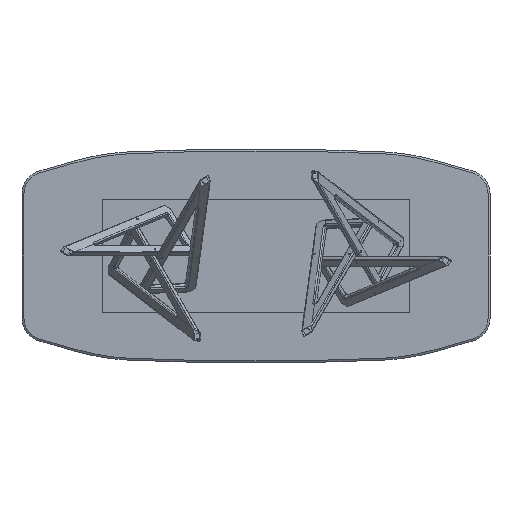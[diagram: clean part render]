
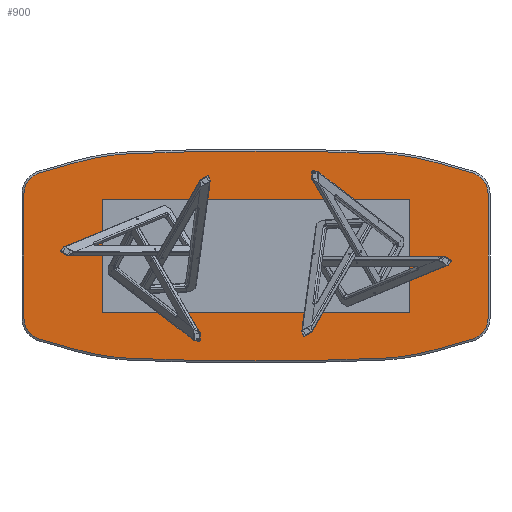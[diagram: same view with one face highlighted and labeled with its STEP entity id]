
A CAD part, front view. The second image highlights one B-rep face of the part: STEP entity #900.
In plain terms, the highlighted planar face has unit normal (0, -1, 0) as drawn and (0, 0, -1) by its records, which use the part's own axes.
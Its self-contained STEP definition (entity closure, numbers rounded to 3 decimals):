
#623 = DIRECTION ( 'NONE',  ( 0., 1., 0. ) ) ;
#665 = CARTESIAN_POINT ( 'NONE',  ( 1190.003, 320., 0. ) ) ;
#836 = CARTESIAN_POINT ( 'NONE',  ( -595.277, -664.531, 0. ) ) ;
#900 = ADVANCED_FACE ( 'NONE', ( #20739 ), #10003, .T. ) ;
#927 = AXIS2_PLACEMENT_3D ( 'NONE', #13142, #23718, #14945 ) ;
#1226 = EDGE_CURVE ( 'NONE', #1399, #5859, #1689, .T. ) ;
#1227 = VECTOR ( 'NONE', #623, 1000. ) ;
#1252 = CARTESIAN_POINT ( 'NONE',  ( 1163.045, 1077.619, 0. ) ) ;
#1399 = VERTEX_POINT ( 'NONE', #13248 ) ;
#1689 = CIRCLE ( 'NONE', #927, 110.003 ) ;
#1810 = CIRCLE ( 'NONE', #15316, 1190.003 ) ;
#1813 = CARTESIAN_POINT ( 'NONE',  ( 1190.003, -320., 0. ) ) ;
#2293 = ORIENTED_EDGE ( 'NONE', *, *, #20290, .T. ) ;
#2817 = CARTESIAN_POINT ( 'NONE',  ( -653.341, -524.054, 0. ) ) ;
#3246 = VERTEX_POINT ( 'NONE', #19134 ) ;
#3293 = ORIENTED_EDGE ( 'NONE', *, *, #20166, .T. ) ;
#3677 = CARTESIAN_POINT ( 'NONE',  ( 653.341, 524.054, 0. ) ) ;
#3869 = VECTOR ( 'NONE', #19811, 1000. ) ;
#4294 = CARTESIAN_POINT ( 'NONE',  ( -1110.321, -425.742, 0. ) ) ;
#4784 = DIRECTION ( 'NONE',  ( 0.961, -0.276, 0. ) ) ;
#4946 = CIRCLE ( 'NONE', #18462, 1190.003 ) ;
#4960 = VERTEX_POINT ( 'NONE', #1813 ) ;
#5859 = VERTEX_POINT ( 'NONE', #665 ) ;
#5897 = EDGE_CURVE ( 'NONE', #16600, #10696, #7481, .T. ) ;
#6360 = DIRECTION ( 'NONE',  ( 0., 0., -1. ) ) ;
#6374 = DIRECTION ( 'NONE',  ( -1., 0., 0. ) ) ;
#6572 = CARTESIAN_POINT ( 'NONE',  ( -653.341, 524.054, 0. ) ) ;
#6575 = EDGE_CURVE ( 'NONE', #12448, #18453, #17954, .T. ) ;
#7039 = EDGE_CURVE ( 'NONE', #20177, #15281, #7294, .T. ) ;
#7075 = ORIENTED_EDGE ( 'NONE', *, *, #6575, .T. ) ;
#7294 = LINE ( 'NONE', #13087, #22558 ) ;
#7363 = CIRCLE ( 'NONE', #18181, 110.003 ) ;
#7393 = EDGE_CURVE ( 'NONE', #5859, #4960, #18025, .T. ) ;
#7436 = CARTESIAN_POINT ( 'NONE',  ( 923.287, -479.373, 0. ) ) ;
#7481 = CIRCLE ( 'NONE', #20947, 1190.003 ) ;
#7531 = AXIS2_PLACEMENT_3D ( 'NONE', #15922, #17503, #12060 ) ;
#7640 = ORIENTED_EDGE ( 'NONE', *, *, #7039, .T. ) ;
#7917 = EDGE_CURVE ( 'NONE', #10040, #10768, #1810, .T. ) ;
#7970 = CARTESIAN_POINT ( 'NONE',  ( 1300., 600., 0. ) ) ;
#8004 = VERTEX_POINT ( 'NONE', #17731 ) ;
#8150 = DIRECTION ( 'NONE',  ( -1., 0., 0. ) ) ;
#8151 = DIRECTION ( 'NONE',  ( -1., 0., 0. ) ) ;
#8273 = LINE ( 'NONE', #4294, #16947 ) ;
#8291 = ORIENTED_EDGE ( 'NONE', *, *, #5897, .T. ) ;
#8327 = CARTESIAN_POINT ( 'NONE',  ( 0., -12850., 0. ) ) ;
#8382 = CIRCLE ( 'NONE', #21471, 1190.003 ) ;
#8385 = CARTESIAN_POINT ( 'NONE',  ( 595.277, 664.531, 0. ) ) ;
#8685 = DIRECTION ( 'NONE',  ( 0., 0., -1. ) ) ;
#8841 = CARTESIAN_POINT ( 'NONE',  ( 1190.003, -320., 0. ) ) ;
#9087 = ORIENTED_EDGE ( 'NONE', *, *, #19840, .T. ) ;
#9510 = EDGE_CURVE ( 'NONE', #15281, #10818, #8382, .T. ) ;
#9588 = VERTEX_POINT ( 'NONE', #19823 ) ;
#10003 = PLANE ( 'NONE',  #21312 ) ;
#10040 = VERTEX_POINT ( 'NONE', #21709 ) ;
#10065 = DIRECTION ( 'NONE',  ( -1., 0., 0. ) ) ;
#10187 = DIRECTION ( 'NONE',  ( 0., 0., -1. ) ) ;
#10380 = DIRECTION ( 'NONE',  ( 0., 0., -1. ) ) ;
#10493 = DIRECTION ( 'NONE',  ( -1., 0., 0. ) ) ;
#10673 = VECTOR ( 'NONE', #19356, 1000. ) ;
#10696 = VERTEX_POINT ( 'NONE', #11277 ) ;
#10768 = VERTEX_POINT ( 'NONE', #6572 ) ;
#10818 = VERTEX_POINT ( 'NONE', #21274 ) ;
#10872 = EDGE_CURVE ( 'NONE', #21192, #8004, #4946, .T. ) ;
#10903 = DIRECTION ( 'NONE',  ( -0.961, -0.276, 0. ) ) ;
#11118 = AXIS2_PLACEMENT_3D ( 'NONE', #13590, #10187, #8151 ) ;
#11277 = CARTESIAN_POINT ( 'NONE',  ( -923.287, -479.373, 0. ) ) ;
#11323 = ORIENTED_EDGE ( 'NONE', *, *, #1226, .T. ) ;
#12060 = DIRECTION ( 'NONE',  ( -1., 0., 0. ) ) ;
#12179 = ORIENTED_EDGE ( 'NONE', *, *, #7393, .T. ) ;
#12189 = CARTESIAN_POINT ( 'NONE',  ( 1110.321, -425.742, 0. ) ) ;
#12425 = ORIENTED_EDGE ( 'NONE', *, *, #22412, .T. ) ;
#12448 = VERTEX_POINT ( 'NONE', #13975 ) ;
#12452 = CARTESIAN_POINT ( 'NONE',  ( -1110.321, 425.742, 0. ) ) ;
#12724 = VECTOR ( 'NONE', #4784, 1000. ) ;
#13087 = CARTESIAN_POINT ( 'NONE',  ( 1557.369, -297.553, 0. ) ) ;
#13142 = CARTESIAN_POINT ( 'NONE',  ( 1080., 320., 0. ) ) ;
#13248 = CARTESIAN_POINT ( 'NONE',  ( 1110.321, 425.742, 0. ) ) ;
#13588 = DIRECTION ( 'NONE',  ( 0., 0., -1. ) ) ;
#13590 = CARTESIAN_POINT ( 'NONE',  ( 1080., -320., 0. ) ) ;
#13840 = DIRECTION ( 'NONE',  ( -0.961, 0.276, 0. ) ) ;
#13975 = CARTESIAN_POINT ( 'NONE',  ( -1190.003, 320., 0. ) ) ;
#14180 = EDGE_CURVE ( 'NONE', #4960, #20177, #14608, .T. ) ;
#14296 = LINE ( 'NONE', #1252, #3869 ) ;
#14332 = AXIS2_PLACEMENT_3D ( 'NONE', #8327, #8685, #10493 ) ;
#14354 = CARTESIAN_POINT ( 'NONE',  ( 1110.321, 425.742, 0. ) ) ;
#14608 = CIRCLE ( 'NONE', #11118, 110.003 ) ;
#14609 = DIRECTION ( 'NONE',  ( -1., 0., 0. ) ) ;
#14695 = ORIENTED_EDGE ( 'NONE', *, *, #7917, .T. ) ;
#14945 = DIRECTION ( 'NONE',  ( -1., 0., 0. ) ) ;
#15281 = VERTEX_POINT ( 'NONE', #7436 ) ;
#15316 = AXIS2_PLACEMENT_3D ( 'NONE', #836, #6360, #21193 ) ;
#15787 = LINE ( 'NONE', #14354, #12724 ) ;
#15922 = CARTESIAN_POINT ( 'NONE',  ( -1080., 320., 0. ) ) ;
#16056 = DIRECTION ( 'NONE',  ( -1., 0., 0. ) ) ;
#16382 = AXIS2_PLACEMENT_3D ( 'NONE', #19898, #18465, #14609 ) ;
#16600 = VERTEX_POINT ( 'NONE', #2817 ) ;
#16617 = ORIENTED_EDGE ( 'NONE', *, *, #9510, .T. ) ;
#16947 = VECTOR ( 'NONE', #13840, 1000. ) ;
#17103 = CARTESIAN_POINT ( 'NONE',  ( -595.277, 664.531, 0. ) ) ;
#17182 = CIRCLE ( 'NONE', #16382, 13390.003 ) ;
#17347 = ORIENTED_EDGE ( 'NONE', *, *, #23647, .T. ) ;
#17394 = DIRECTION ( 'NONE',  ( 0., 0., -1. ) ) ;
#17446 = EDGE_CURVE ( 'NONE', #8004, #1399, #15787, .T. ) ;
#17503 = DIRECTION ( 'NONE',  ( 0., 0., -1. ) ) ;
#17731 = CARTESIAN_POINT ( 'NONE',  ( 923.287, 479.373, 0. ) ) ;
#17954 = CIRCLE ( 'NONE', #7531, 110.003 ) ;
#18025 = LINE ( 'NONE', #8841, #10673 ) ;
#18181 = AXIS2_PLACEMENT_3D ( 'NONE', #20753, #10380, #16056 ) ;
#18453 = VERTEX_POINT ( 'NONE', #12452 ) ;
#18462 = AXIS2_PLACEMENT_3D ( 'NONE', #23205, #13588, #8150 ) ;
#18465 = DIRECTION ( 'NONE',  ( 0., 0., -1. ) ) ;
#18769 = ORIENTED_EDGE ( 'NONE', *, *, #20050, .T. ) ;
#18828 = ORIENTED_EDGE ( 'NONE', *, *, #10872, .T. ) ;
#19014 = DIRECTION ( 'NONE',  ( 0., 0., -1. ) ) ;
#19072 = ORIENTED_EDGE ( 'NONE', *, *, #17446, .T. ) ;
#19083 = LINE ( 'NONE', #20521, #1227 ) ;
#19134 = CARTESIAN_POINT ( 'NONE',  ( -1190.003, -320., 0. ) ) ;
#19250 = EDGE_LOOP ( 'NONE', ( #3293, #18769, #7075, #9087, #14695, #2293, #18828, #19072, #11323, #12179, #20246, #7640, #16617, #17347, #8291, #12425 ) ) ;
#19323 = CIRCLE ( 'NONE', #14332, 13390.003 ) ;
#19356 = DIRECTION ( 'NONE',  ( 0., -1., 0. ) ) ;
#19811 = DIRECTION ( 'NONE',  ( 0.961, 0.276, 0. ) ) ;
#19823 = CARTESIAN_POINT ( 'NONE',  ( -1110.321, -425.742, 0. ) ) ;
#19840 = EDGE_CURVE ( 'NONE', #18453, #10040, #14296, .T. ) ;
#19898 = CARTESIAN_POINT ( 'NONE',  ( 0., 12850., 0. ) ) ;
#20050 = EDGE_CURVE ( 'NONE', #3246, #12448, #19083, .T. ) ;
#20166 = EDGE_CURVE ( 'NONE', #9588, #3246, #7363, .T. ) ;
#20177 = VERTEX_POINT ( 'NONE', #12189 ) ;
#20246 = ORIENTED_EDGE ( 'NONE', *, *, #14180, .T. ) ;
#20290 = EDGE_CURVE ( 'NONE', #10768, #21192, #19323, .T. ) ;
#20521 = CARTESIAN_POINT ( 'NONE',  ( -1190.003, 600., 0. ) ) ;
#20555 = DIRECTION ( 'NONE',  ( -1., 0., 0. ) ) ;
#20739 = FACE_OUTER_BOUND ( 'NONE', #19250, .T. ) ;
#20753 = CARTESIAN_POINT ( 'NONE',  ( -1080., -320., 0. ) ) ;
#20947 = AXIS2_PLACEMENT_3D ( 'NONE', #17103, #19014, #20555 ) ;
#21022 = DIRECTION ( 'NONE',  ( 0., 0., -1. ) ) ;
#21192 = VERTEX_POINT ( 'NONE', #3677 ) ;
#21193 = DIRECTION ( 'NONE',  ( -1., 0., 0. ) ) ;
#21274 = CARTESIAN_POINT ( 'NONE',  ( 653.341, -524.054, 0. ) ) ;
#21312 = AXIS2_PLACEMENT_3D ( 'NONE', #7970, #17394, #6374 ) ;
#21471 = AXIS2_PLACEMENT_3D ( 'NONE', #8385, #21022, #10065 ) ;
#21709 = CARTESIAN_POINT ( 'NONE',  ( -923.287, 479.373, 0. ) ) ;
#22412 = EDGE_CURVE ( 'NONE', #10696, #9588, #8273, .T. ) ;
#22558 = VECTOR ( 'NONE', #10903, 1000. ) ;
#23205 = CARTESIAN_POINT ( 'NONE',  ( 595.277, -664.531, 0. ) ) ;
#23647 = EDGE_CURVE ( 'NONE', #10818, #16600, #17182, .T. ) ;
#23718 = DIRECTION ( 'NONE',  ( 0., 0., -1. ) ) ;
